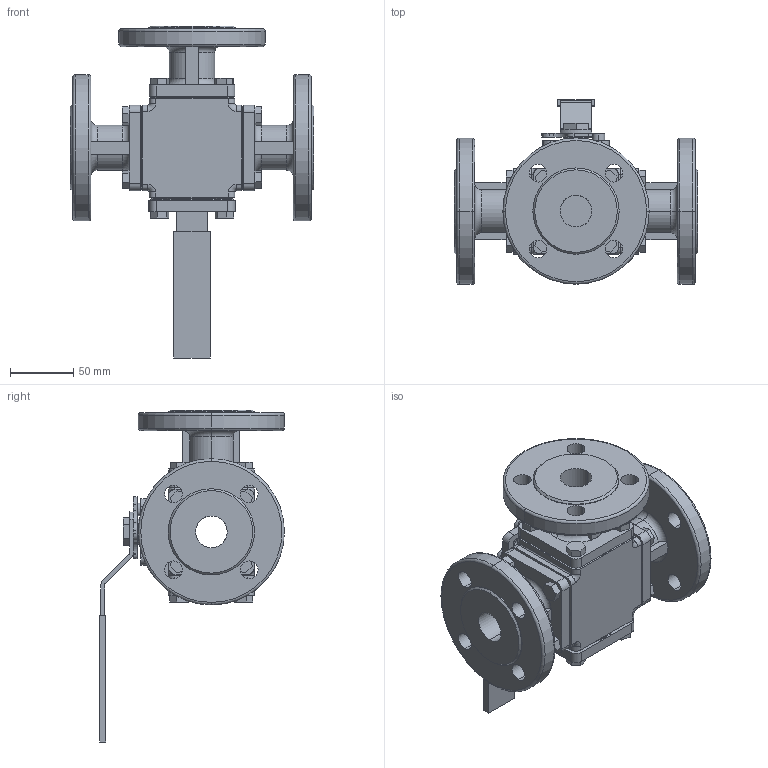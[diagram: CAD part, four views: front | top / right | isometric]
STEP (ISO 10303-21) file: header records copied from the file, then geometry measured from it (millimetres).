
FILE_DESCRIPTION (( 'STEP AP214' ), '1' );
FILE_NAME ('S316D DN25 HB.step', '2011-04-20T13:24:20', ( '' ), ( '' ), 'SwSTEP 2.0', 'SolidWorks 2011', '' );
FILE_SCHEMA (( 'AUTOMOTIVE_DESIGN' ));
Length unit declared in the file: millimetre
Products named in the file (7): S316D Blindflens DN25; S316D Flange end DN25; Hex Nut Style 1 GradeAB_DIN_Hexagon Nut ISO 4032 - M6 - D - N; Socket Head Cap Screw_DIN_DIN 912 M6 x 16 --- 16N; S316D Hendel DN20; S316D KK DN25 PN16; S316D DN25 HB
Assembly tree (8 placements, depth 2):
  S316D DN25 HB
    S316D Flange end DN25  x3
    S316D Blindflens DN25
    Socket Head Cap Screw_DIN_DIN 912 M6 x 16 --- 16N
    S316D Hendel DN20
    Hex Nut Style 1 GradeAB_DIN_Hexagon Nut ISO 4032 - M6 - D - N
    S316D KK DN25 PN16
Bounding box: 192.1 x 145.75 x 261.68 mm (x, y, z)
Volume: 1117514.2 mm3; surface area: 221825.4 mm2
Topology: 8 solids, 8 shells, 626 faces, 1583 edges, 1010 vertices
Faces by surface type: plane 349, cylinder 181, torus 54, cone 42
Entity records: 14188 total; most frequent: CARTESIAN_POINT 2656, DIRECTION 2399, ORIENTED_EDGE 2278, EDGE_CURVE 1139, AXIS2_PLACEMENT_3D 843, VERTEX_POINT 722, LINE 713, VECTOR 713
